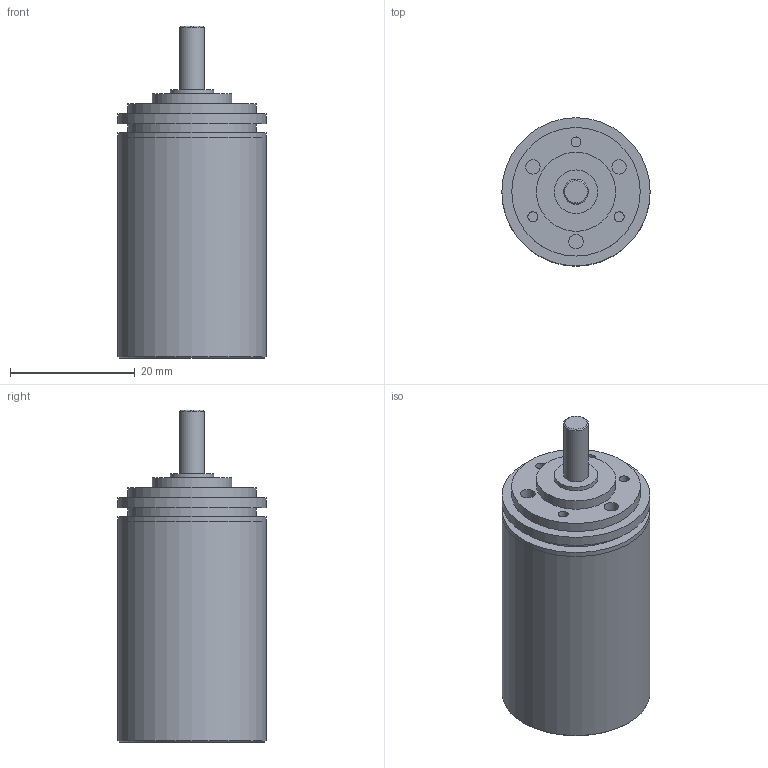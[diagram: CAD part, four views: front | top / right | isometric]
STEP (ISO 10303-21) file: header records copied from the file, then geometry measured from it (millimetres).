
FILE_DESCRIPTION(/* description */ (''),/* implementation_level */ '2;1');
FILE_NAME(/* name */ '22-2_2.stp',/* time_stamp */ '2016-08-26T11:11:50+02:00',/* author */ ('DR. FRITZ FAULHABER GmbH & Co. KG'),/* organization */ ('DR. FRITZ FAULHABER GmbH & Co. KG'),/* preprocessor_version */ 'ST-DEVELOPER v16',/* originating_system */ 'SIEMENS PLM Software NX 10.0',/* authorisation */ '');
FILE_SCHEMA (('AUTOMOTIVE_DESIGN { 1 0 10303 214 3 1 1 1 }'));
Length unit declared in the file: millimetre
Products named in the file (1): H00000852_A
Bounding box: 23.8 x 23.8 x 53.3 mm (x, y, z)
Volume: 10438.7 mm3; surface area: 5978.7 mm2
Topology: 1 solids, 1 shells, 42 faces, 65 edges, 43 vertices
Faces by surface type: plane 20, cylinder 19, cone 3
Full cylindrical faces by diameter (mm): 1.6 x3, 2.329 x3, 3.5 x1, 4 x1, 4.5 x1, 7 x2, 12.7 x1, 20.63 x2, 22 x1, 23.79 x1, 23.8 x3
Entity records: 858 total; most frequent: DIRECTION 168, CARTESIAN_POINT 125, AXIS2_PLACEMENT_3D 84, EDGE_LOOP 82, ORIENTED_EDGE 82, FACE_BOUND 74, ADVANCED_FACE 42, VERTEX_POINT 41
